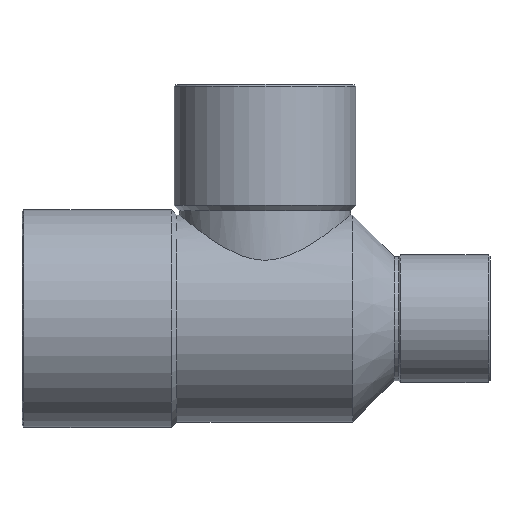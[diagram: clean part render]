
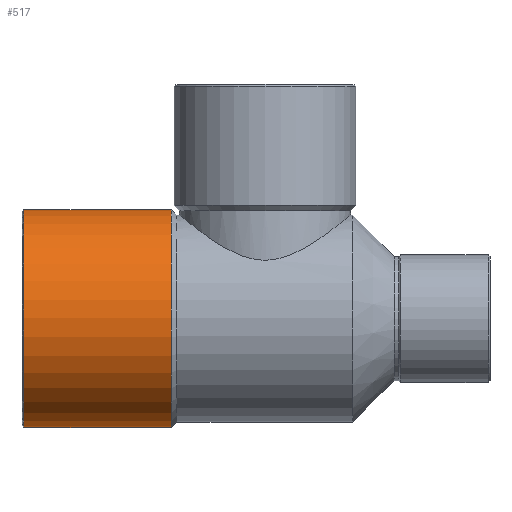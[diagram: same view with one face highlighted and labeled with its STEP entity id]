
A CAD part, top view. The second image highlights one B-rep face of the part: STEP entity #517.
In plain terms, the highlighted cylindrical face has radius 12.1 mm (diameter 24.2 mm), a partial arc.
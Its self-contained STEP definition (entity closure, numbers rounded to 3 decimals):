
#286=CARTESIAN_POINT('',(-10.397,12.1,0.0));
#287=VERTEX_POINT('',#286);
#294=CARTESIAN_POINT('',(-10.397,-12.1,0.));
#295=VERTEX_POINT('',#294);
#296=CARTESIAN_POINT('',(-10.397,0.0,0.0));
#297=DIRECTION('',(1.0,0.0,0.0));
#298=DIRECTION('',(0.0,1.0,0.0));
#299=AXIS2_PLACEMENT_3D('',#296,#297,#298);
#300=CIRCLE('',#299,12.1);
#301=EDGE_CURVE('',#287,#295,#300,.T.);
#486=CARTESIAN_POINT('',(-18.698,0.0,0.0));
#487=DIRECTION('',(1.0,0.0,0.0));
#488=DIRECTION('',(0.0,1.0,0.0));
#489=AXIS2_PLACEMENT_3D('',#486,#487,#488);
#490=CYLINDRICAL_SURFACE('',#489,12.1);
#491=CARTESIAN_POINT('',(-26.8,12.1,0.));
#492=VERTEX_POINT('',#491);
#493=CARTESIAN_POINT('',(-26.8,12.1,0.));
#494=DIRECTION('',(1.0,0.0,0.0));
#495=VECTOR('',#494,16.403);
#496=LINE('',#493,#495);
#497=EDGE_CURVE('',#492,#287,#496,.T.);
#498=ORIENTED_EDGE('',*,*,#497,.F.);
#499=CARTESIAN_POINT('',(-26.8,-12.1,0.));
#500=VERTEX_POINT('',#499);
#501=CARTESIAN_POINT('',(-26.8,0.0,0.0));
#502=DIRECTION('',(-1.0,0.0,0.0));
#503=DIRECTION('',(0.0,-1.0,0.0));
#504=AXIS2_PLACEMENT_3D('',#501,#502,#503);
#505=CIRCLE('',#504,12.1);
#506=EDGE_CURVE('',#500,#492,#505,.T.);
#507=ORIENTED_EDGE('',*,*,#506,.F.);
#508=CARTESIAN_POINT('',(-10.397,-12.1,0.));
#509=DIRECTION('',(-1.0,0.0,0.0));
#510=VECTOR('',#509,16.403);
#511=LINE('',#508,#510);
#512=EDGE_CURVE('',#295,#500,#511,.T.);
#513=ORIENTED_EDGE('',*,*,#512,.F.);
#514=ORIENTED_EDGE('',*,*,#301,.F.);
#515=EDGE_LOOP('',(#498,#507,#513,#514));
#516=FACE_OUTER_BOUND('',#515,.T.);
#517=ADVANCED_FACE('',(#516),#490,.T.);
